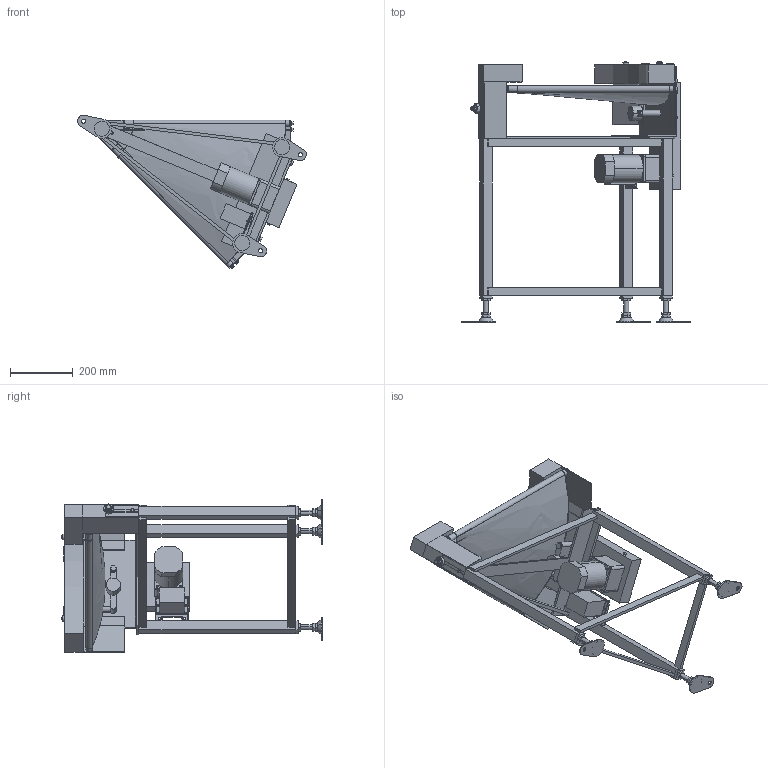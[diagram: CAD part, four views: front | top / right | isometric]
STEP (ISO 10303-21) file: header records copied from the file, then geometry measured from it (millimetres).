
FILE_DESCRIPTION( (''), '2;1');
FILE_NAME ('MMBC3-UD-309-400-45°-R-K-120.stp','2025-02-17T13:50:57',(''),(''),'spGate 20.6.2 (****-****-****-****)','','');
FILE_SCHEMA (('AUTOMOTIVE_DESIGN'));
Length unit declared in the file: millimetre
Products named in the file (39): NewModel; TEMP_X_T-prt0; TEMP_X_T-prt1; TEMP_X_T-prt2; TEMP_X_T-prt3; TEMP_X_T-prt4; TEMP_X_T-prt5; TEMP_X_T-prt6; TEMP_X_T-prt7; TEMP_X_T-prt8; TEMP_X_T-prt9; TEMP_X_T-prt10; TEMP_X_T-prt11; TEMP_X_T-prt12; TEMP_X_T-prt13; TEMP_X_T-prt14; TEMP_X_T-prt15; TEMP_X_T-prt16; TEMP_X_T-prt17; TEMP_X_T-prt18; TEMP_X_T-prt19; TEMP_X_T-prt20; TEMP_X_T-prt21; TEMP_X_T-prt22; TEMP_X_T-prt23; TEMP_X_T-prt24; TEMP_X_T-prt25; TEMP_X_T-prt26; TEMP_X_T-prt27; TEMP_X_T-prt28; TEMP_X_T-prt29; TEMP_X_T-prt30; TEMP_X_T-prt31; TEMP_X_T-prt32; TEMP_X_T-prt33; TEMP_X_T-prt34; TEMP_X_T-prt35; TEMP_X_T-prt36; TEMP_X_T-prt37
Assembly tree (38 placements, depth 2):
  NewModel
    TEMP_X_T-prt0
    TEMP_X_T-prt1
    TEMP_X_T-prt2
    TEMP_X_T-prt3
    TEMP_X_T-prt4
    TEMP_X_T-prt5
    TEMP_X_T-prt6
    TEMP_X_T-prt7
    TEMP_X_T-prt8
    TEMP_X_T-prt9
    TEMP_X_T-prt10
    TEMP_X_T-prt11
    TEMP_X_T-prt12
    TEMP_X_T-prt13
    TEMP_X_T-prt14
    TEMP_X_T-prt15
    TEMP_X_T-prt16
    TEMP_X_T-prt17
    TEMP_X_T-prt18
    TEMP_X_T-prt19
    TEMP_X_T-prt20
    TEMP_X_T-prt21
    TEMP_X_T-prt22
    TEMP_X_T-prt23
    TEMP_X_T-prt24
    TEMP_X_T-prt25
    TEMP_X_T-prt26
    TEMP_X_T-prt27
    TEMP_X_T-prt28
    TEMP_X_T-prt29
    TEMP_X_T-prt30
    TEMP_X_T-prt31
    TEMP_X_T-prt32
    TEMP_X_T-prt33
    TEMP_X_T-prt34
    TEMP_X_T-prt35
    TEMP_X_T-prt36
    TEMP_X_T-prt37
Bounding box: 726.11 x 827.52 x 487.76 mm (x, y, z)
Volume: 11641364.4 mm3; surface area: 2355594.5 mm2
Topology: 38 solids, 38 shells, 1074 faces, 2553 edges, 1648 vertices
Faces by surface type: plane 735, cylinder 267, bspline 68, sphere 4
Entity records: 56279 total; most frequent: CARTESIAN_POINT 9571, ORIENTED_EDGE 5098, DIRECTION 5058, COLOUR_RGB 3661, PRESENTATION_STYLE_ASSIGNMENT 3661, STYLED_ITEM 3661, EDGE_CURVE 2549, DRAUGHTING_PRE_DEFINED_CURVE_FONT 2549
